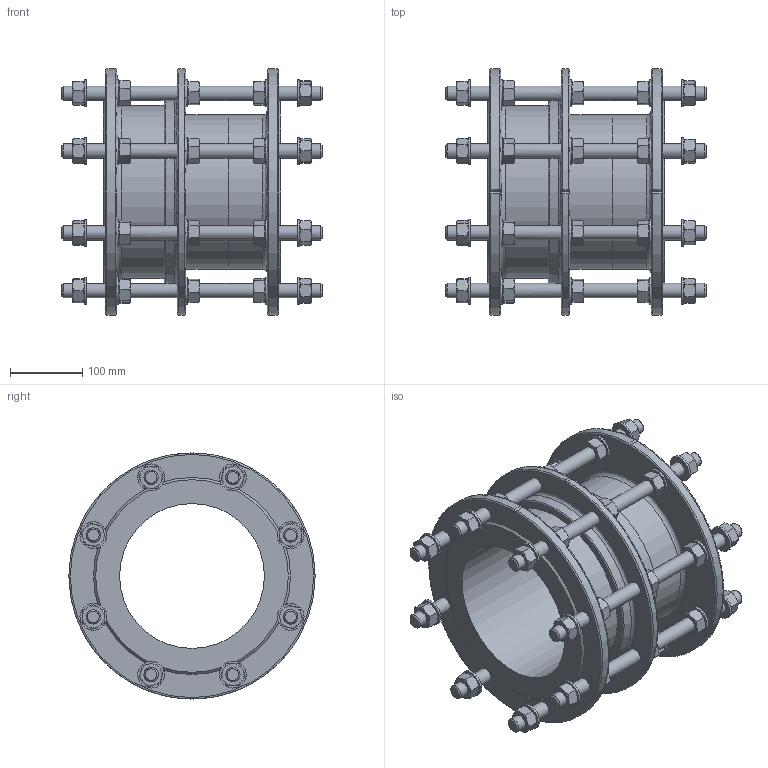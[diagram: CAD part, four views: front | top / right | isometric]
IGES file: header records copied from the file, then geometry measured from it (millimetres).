
Start section: SolidWorks IGES file using analytic representation for surfaces
Global section: file name: \\avksan2\techshare\PBM outline export from Enovia\O_265_911_DN200_0XXXXX01_L=245_REV01.igs; native system: SolidWorks 2022; preprocessor: SolidWorks 2022; author: pbm; date: 241212.084830; units: millimetre
Bounding box: 360 x 340 x 339.96 mm (x, y, z)
Surface area: 857438.1 mm2 (no closed solid volume)
Topology: 0 solids, 0 shells, 1027 faces, 4387 edges, 4272 vertices
Faces by surface type: revolution 615, bspline 412
